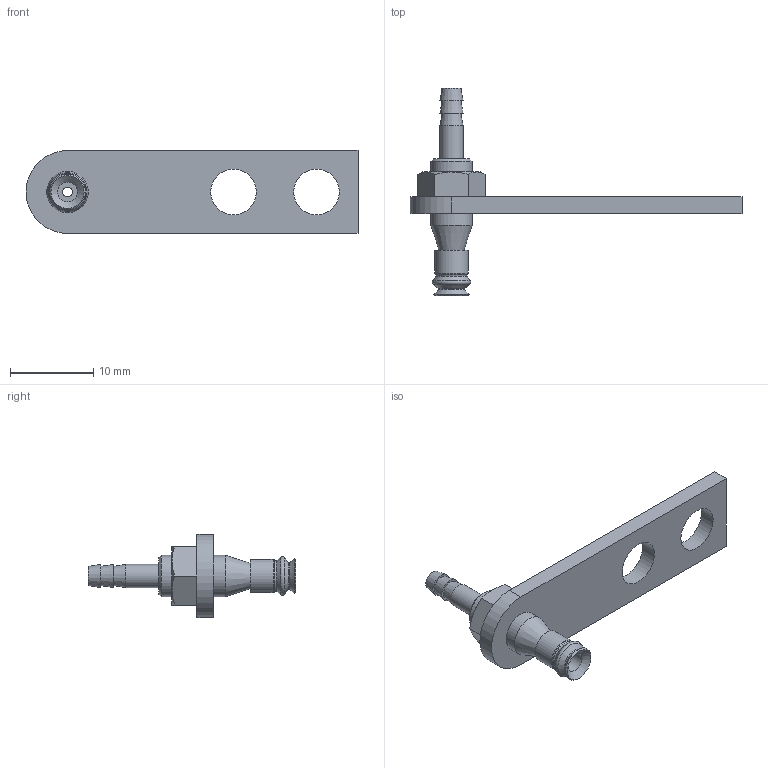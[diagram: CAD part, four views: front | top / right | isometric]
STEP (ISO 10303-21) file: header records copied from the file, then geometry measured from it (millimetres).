
FILE_DESCRIPTION(('STEP AP203'),'1');
FILE_NAME('.stp','2025-04-23T02:22:03',(' '),(' '),'Spatial InterOp 3D',' ',' ');
FILE_SCHEMA(('CONFIG_CONTROL_DESIGN'));
Length unit declared in the file: millimetre
Products named in the file (5): BBPJTK-4-※; PFTK-1.5A; NUT-1.5A; PF_K-Mounting plate; BPJG-4-※
Assembly tree (4 placements, depth 2):
  BBPJTK-4-※
    PFTK-1.5A
    NUT-1.5A
    PF_K-Mounting plate
    BPJG-4-※
Bounding box: 40 x 25 x 10 mm (x, y, z)
Volume: 992.5 mm3; surface area: 1606.4 mm2
Topology: 4 solids, 4 shells, 66 faces, 138 edges, 85 vertices
Faces by surface type: plane 22, cone 20, cylinder 14, torus 10
Full cylindrical faces by diameter (mm): 1.2 x1, 2 x2, 2.4 x1, 2.8 x1, 3 x2, 4 x1, 4.459 x1, 5 x2, 5.5 x2
Entity records: 1850 total; most frequent: CARTESIAN_POINT 353, DIRECTION 280, ORIENTED_EDGE 184, AXIS2_PLACEMENT_3D 129, EDGE_LOOP 120, EDGE_CURVE 92, FACE_OUTER_BOUND 89, VERTEX_POINT 76
